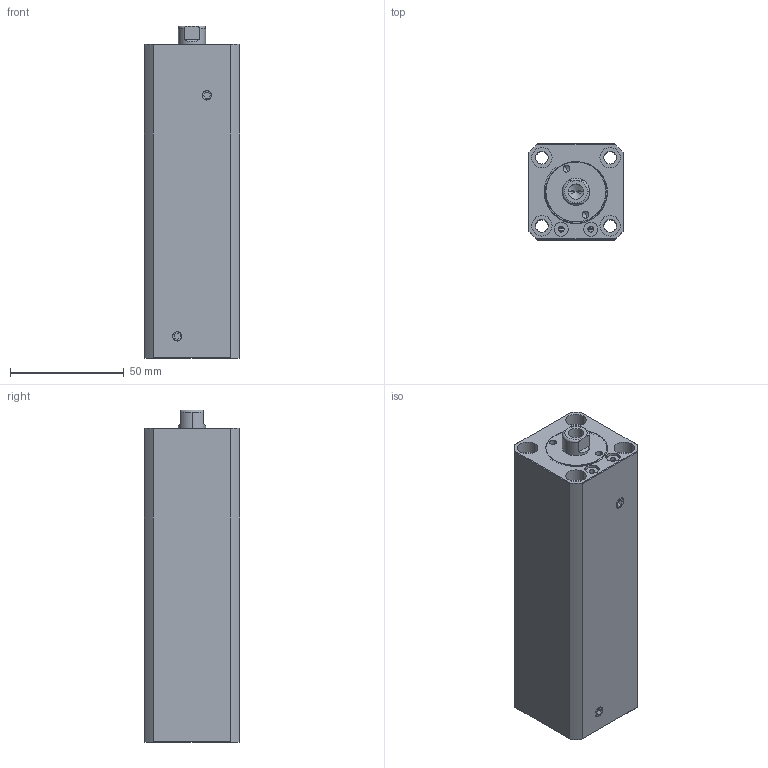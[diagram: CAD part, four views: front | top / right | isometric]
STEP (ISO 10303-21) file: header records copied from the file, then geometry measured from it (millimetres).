
FILE_DESCRIPTION (( 'STEP AP214' ), '1' );
FILE_NAME ('chtb-sdma20x95n_asm.STEP', '2018-05-18T06:59:51', ( '' ), ( '' ), 'SwSTEP 2.0', 'SolidWorks 2016', '' );
FILE_SCHEMA (( 'AUTOMOTIVE_DESIGN' ));
Length unit declared in the file: millimetre
Products named in the file (5): socket set screw flat point_iso_ISO 4026 - M5 x 5-N; QG_3; CHTB-SDMA20X95NHSG; CHTB-SDMA20X95NBT; chtb-sdma20x95n_asm
Assembly tree (5 placements, depth 2):
  chtb-sdma20x95n_asm
    CHTB-SDMA20X95NBT
    CHTB-SDMA20X95NHSG
    QG_3
    socket set screw flat point_iso_ISO 4026 - M5 x 5-N  x2
Bounding box: 42 x 42 x 146 mm (x, y, z)
Volume: 202820.1 mm3; surface area: 56884.2 mm2
Topology: 5 solids, 5 shells, 232 faces, 602 edges, 396 vertices
Faces by surface type: cylinder 111, plane 61, torus 25, bspline 21, cone 14
Entity records: 12042 total; most frequent: CARTESIAN_POINT 6742, ORIENTED_EDGE 1128, DIRECTION 1000, EDGE_CURVE 564, AXIS2_PLACEMENT_3D 415, VERTEX_POINT 376, EDGE_LOOP 256, FACE_OUTER_BOUND 217
